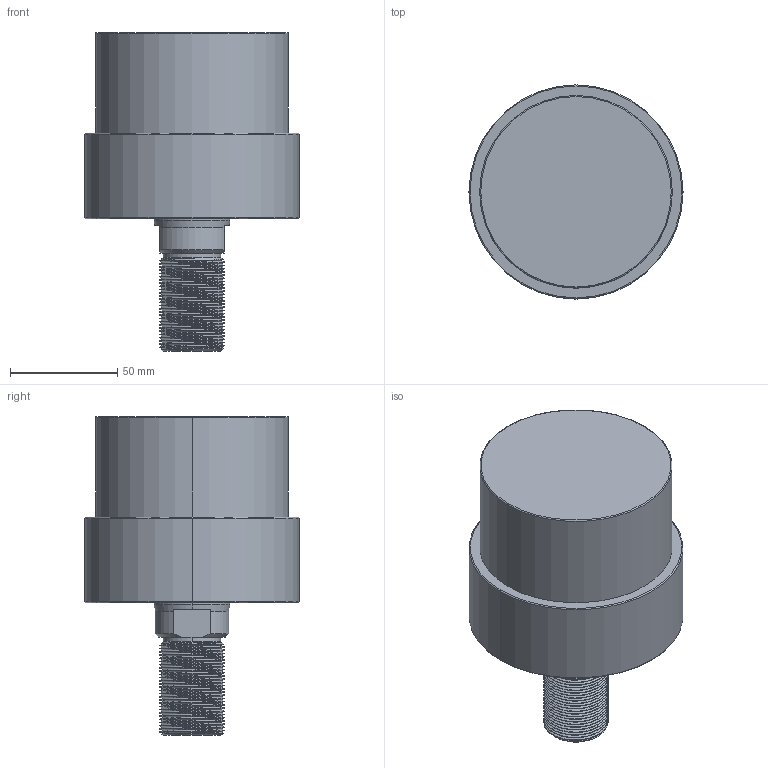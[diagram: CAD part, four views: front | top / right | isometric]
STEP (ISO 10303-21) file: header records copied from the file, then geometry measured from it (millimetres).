
FILE_DESCRIPTION (( 'STEP AP203' ), '1' );
FILE_NAME ('CLLU-090GT-025.STEP', '2020-01-13T02:31:43', ( '' ), ( '' ), 'SwSTEP 2.0', 'SolidWorks 2015', '' );
FILE_SCHEMA (( 'CONFIG_CONTROL_DESIGN' ));
Length unit declared in the file: millimetre
Products named in the file (1): CLLU-090GT-025
Bounding box: 100 x 100 x 149 mm (x, y, z)
Volume: 651707.6 mm3; surface area: 53100.8 mm2
Topology: 1 solids, 1 shells, 123 faces, 321 edges, 201 vertices
Faces by surface type: cylinder 78, cone 26, plane 11, torus 6, bspline 2
Entity records: 7140 total; most frequent: CARTESIAN_POINT 4405, ORIENTED_EDGE 626, DIRECTION 501, EDGE_CURVE 313, VERTEX_POINT 201, AXIS2_PLACEMENT_3D 197, EDGE_LOOP 132, ADVANCED_FACE 123
